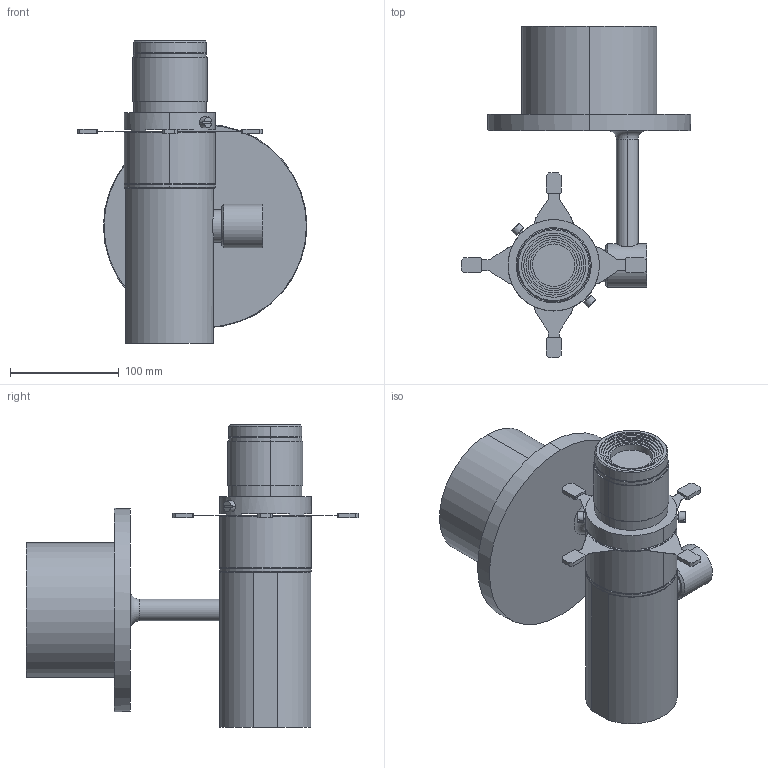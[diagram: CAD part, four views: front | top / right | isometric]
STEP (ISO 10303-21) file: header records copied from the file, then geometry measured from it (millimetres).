
FILE_DESCRIPTION (( 'STEP AP203' ), '1' );
FILE_NAME ('P1L (Monopoint)_Hanging+50D_10-06-2026.STEP', '2026-06-10T19:55:42', ( '' ), ( '' ), 'SwSTEP 2.0', 'SolidWorks 2014', '' );
FILE_SCHEMA (( 'CONFIG_CONTROL_DESIGN' ));
Length unit declared in the file: millimetre
Products named in the file (4): P1L (Monopoint)_Hanging+50D_10-06-2026; Monopoint_Yoke+PSU; 50D_Fresnel Lens_P1L; P1L - Light Body
Assembly tree (3 placements, depth 2):
  P1L (Monopoint)_Hanging+50D_10-06-2026
    Monopoint_Yoke+PSU
    P1L - Light Body
    50D_Fresnel Lens_P1L
Bounding box: 211.28 x 305.16 x 277.7 mm (x, y, z)
Volume: 2748262.1 mm3; surface area: 225617 mm2
Topology: 3 solids, 3 shells, 257 faces, 657 edges, 424 vertices
Faces by surface type: plane 156, cylinder 81, cone 18, torus 2
Entity records: 8423 total; most frequent: CARTESIAN_POINT 1594, DIRECTION 1385, ORIENTED_EDGE 1314, EDGE_CURVE 657, AXIS2_PLACEMENT_3D 475, LINE 435, VECTOR 435, VERTEX_POINT 424
